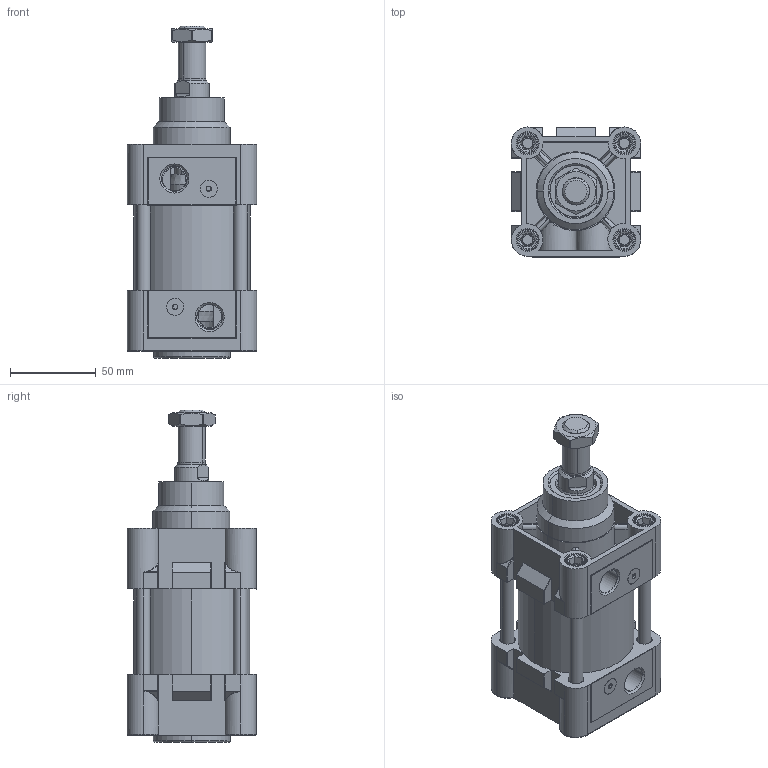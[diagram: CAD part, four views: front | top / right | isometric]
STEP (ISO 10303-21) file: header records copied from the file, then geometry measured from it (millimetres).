
FILE_DESCRIPTION (( 'STEP AP203' ), '1' );
FILE_NAME ('TDNC63x0CYLINDER.STEP', '2014-07-09T14:01:45', ( 'user' ), ( '' ), 'SwSTEP 2.0', 'SolidWorks 2013', '' );
FILE_SCHEMA (( 'CONFIG_CONTROL_DESIGN' ));
Length unit declared in the file: millimetre
Products named in the file (20): TDNC63x0CYLINDER; ﾖN MﾝL KEﾇESﾝ 63; KAPAK O-RÝNGÝ 63; SOMUN 63; ORTA PÝSTON 63; YASTIKLAMA VÝDASI 63; V媶A 63; YASTIKLAMA VÝDASI O-RÝNG 63; PÝSTON KEÇESÝ 63; PUL 63; MIKNATIS 63; CIVATA 63; YATAKLAMA BANDI 63; ARKA KAPAK  63; TDNC 63x0 BORU; ORTA PÝSTON O-RÝNG 63 ; 烰 KAPAK  63; TDNC 63x0 SAPLAMA; Piston Mili 63x0; YASTIKLAMA KEÇESÝ 63
Assembly tree (36 placements, depth 2):
  TDNC63x0CYLINDER
    ARKA KAPAK  63
    烰 KAPAK  63
    YASTIKLAMA KEÇESÝ 63  x2
    KAPAK O-RÝNGÝ 63  x2
    ORTA PÝSTON 63
    V媶A 63
    PÝSTON KEÇESÝ 63  x2
    MIKNATIS 63  x2
    YATAKLAMA BANDI 63
    ORTA PÝSTON O-RÝNG 63 
    Piston Mili 63x0
    ﾖN MﾝL KEﾇESﾝ 63
    SOMUN 63
    YASTIKLAMA VÝDASI 63  x2
    YASTIKLAMA VÝDASI O-RÝNG 63  x2
    PUL 63  x2
    CIVATA 63  x8
    TDNC 63x0 BORU
    TDNC 63x0 SAPLAMA  x4
Bounding box: 75.55 x 75.83 x 194 mm (x, y, z)
Volume: 439070.2 mm3; surface area: 219369 mm2
Topology: 38 solids, 38 shells, 1543 faces, 3741 edges, 2345 vertices
Faces by surface type: cylinder 530, plane 504, cone 321, torus 112, bspline 48, sphere 28
Entity records: 40663 total; most frequent: CARTESIAN_POINT 11353, DIRECTION 5651, ORIENTED_EDGE 5608, EDGE_CURVE 2804, AXIS2_PLACEMENT_3D 2277, VERTEX_POINT 1769, EDGE_LOOP 1289, ADVANCED_FACE 1146
